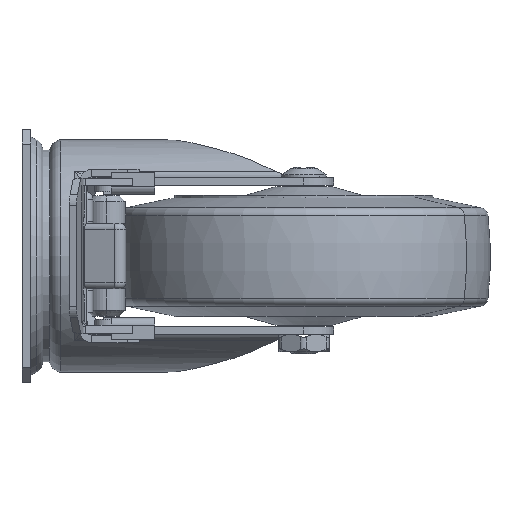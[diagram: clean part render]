
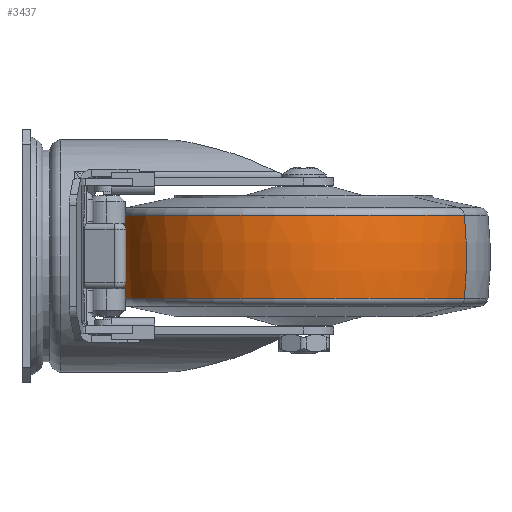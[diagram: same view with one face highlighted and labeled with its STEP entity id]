
A CAD part, left-side view. The second image highlights one B-rep face of the part: STEP entity #3437.
In plain terms, the highlighted toroidal (fillet/blend) face has major radius 62.5 mm and minor radius 125 mm.
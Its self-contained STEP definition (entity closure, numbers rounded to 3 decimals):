
#3370 = VERTEX_POINT ( 'NONE', #13553 ) ;
#3377 = VERTEX_POINT ( 'NONE', #13592 ) ;
#3382 = VERTEX_POINT ( 'NONE', #13583 ) ;
#3383 = EDGE_CURVE ( 'NONE', #3377, #3384, #13550, .T. ) ;
#3384 = VERTEX_POINT ( 'NONE', #13575 ) ;
#3405 = ORIENTED_EDGE ( 'NONE', *, *, #3438, .T. ) ;
#3420 = EDGE_CURVE ( 'NONE', #3384, #3382, #13695, .T. ) ;
#3426 = EDGE_CURVE ( 'NONE', #3370, #3382, #13684, .T. ) ;
#3437 = ADVANCED_FACE ( 'NONE', ( #13681 ), #13696, .T. ) ;
#3438 = EDGE_CURVE ( 'NONE', #3377, #3370, #13719, .T. ) ;
#3439 = ORIENTED_EDGE ( 'NONE', *, *, #3383, .F. ) ;
#3442 = ORIENTED_EDGE ( 'NONE', *, *, #3420, .F. ) ;
#3450 = ORIENTED_EDGE ( 'NONE', *, *, #3426, .T. ) ;
#3459 = EDGE_LOOP ( 'NONE', ( #3439, #3405, #3450, #3442 ) ) ;
#13550 = CIRCLE ( 'NONE', #13635, 125. ) ;
#13553 = CARTESIAN_POINT ( 'NONE',  ( -146.553, -126.233, 41.582 ) ) ;
#13575 = CARTESIAN_POINT ( 'NONE',  ( -86.182, -18.551, 69.375 ) ) ;
#13583 = CARTESIAN_POINT ( 'NONE',  ( -146.553, -126.233, 69.375 ) ) ;
#13592 = CARTESIAN_POINT ( 'NONE',  ( -86.182, -18.551, 41.582 ) ) ;
#13630 = DIRECTION ( 'NONE',  ( 0.489, 0.872, 0. ) ) ;
#13631 = DIRECTION ( 'NONE',  ( 0.872, -0.489, 0. ) ) ;
#13632 = CARTESIAN_POINT ( 'NONE',  ( -146.932, -126.908, 55.479 ) ) ;
#13635 = AXIS2_PLACEMENT_3D ( 'NONE', #13632, #13631, #13630 ) ;
#13647 = DIRECTION ( 'NONE',  ( 0., 0., 1. ) ) ;
#13668 = DIRECTION ( 'NONE',  ( -0.489, -0.872, 0. ) ) ;
#13669 = DIRECTION ( 'NONE',  ( -0.872, 0.489, 0. ) ) ;
#13671 = AXIS2_PLACEMENT_3D ( 'NONE', #13676, #13669, #13668 ) ;
#13676 = CARTESIAN_POINT ( 'NONE',  ( -85.803, -17.875, 55.479 ) ) ;
#13681 = FACE_OUTER_BOUND ( 'NONE', #3459, .T. ) ;
#13682 = DIRECTION ( 'NONE',  ( -0.489, -0.872, 0. ) ) ;
#13683 = AXIS2_PLACEMENT_3D ( 'NONE', #13688, #13647, #13682 ) ;
#13684 = CIRCLE ( 'NONE', #13671, 125. ) ;
#13688 = CARTESIAN_POINT ( 'NONE',  ( -116.367, -72.392, 69.375 ) ) ;
#13695 = CIRCLE ( 'NONE', #13683, 61.725 ) ;
#13696 = TOROIDAL_SURFACE ( 'NONE', #13711, -62.5, 125. ) ;
#13700 = DIRECTION ( 'NONE',  ( -0.489, -0.872, 0. ) ) ;
#13701 = DIRECTION ( 'NONE',  ( 0., 0., 1. ) ) ;
#13702 = AXIS2_PLACEMENT_3D ( 'NONE', #13707, #13701, #13700 ) ;
#13704 = DIRECTION ( 'NONE',  ( -0.489, -0.872, 0. ) ) ;
#13705 = DIRECTION ( 'NONE',  ( 0., 0., 1. ) ) ;
#13706 = CARTESIAN_POINT ( 'NONE',  ( -116.367, -72.392, 55.479 ) ) ;
#13707 = CARTESIAN_POINT ( 'NONE',  ( -116.367, -72.392, 41.582 ) ) ;
#13711 = AXIS2_PLACEMENT_3D ( 'NONE', #13706, #13705, #13704 ) ;
#13719 = CIRCLE ( 'NONE', #13702, 61.725 ) ;
